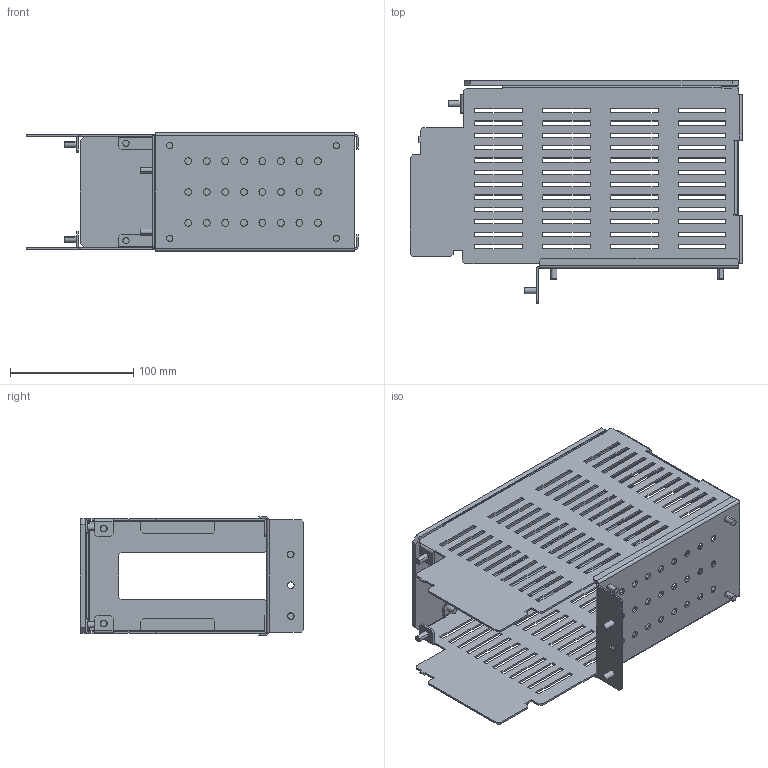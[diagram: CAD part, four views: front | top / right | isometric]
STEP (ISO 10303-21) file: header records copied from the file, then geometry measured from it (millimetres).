
FILE_DESCRIPTION(('CAx-IF Rec.Pracs.---Model Styling and Organization---1.2---2011-12-15','CAx-IF Rec.Pracs.---Geometric and Assembly Validation Properties---4.1---2014-06-16','CAx-IF Rec.Pracs.---PMI Polyline Presentation---2.0---2013-05-24'),'2;1');
FILE_NAME('R5M2W2MSB4.stp','2021-05-05T13:08:14+03:00',(''),(''),'STEP Interface 4.4 by CT CoreTechnologie','3D_Evolution4.4 by CT CoreTechnologie','');
FILE_SCHEMA(('AUTOMOTIVE_DESIGN { 1 0 10303 214 1 1 1 1 }'));
Length unit declared in the file: millimetre
Products named in the file (7): R5M2W2MSB4; M5x12-DIN7500C_stright; RB.1409.00.00.0_-01; RB.1462.00.00.0_-00; RB.1461.00.00.0_-00; RB.1460.00.00.0_-00; RB.1409.00.00.0_-00
Assembly tree (17 placements, depth 2):
  R5M2W2MSB4
    M5x12-DIN7500C_stright  x12
    RB.1409.00.00.0_-01
    RB.1462.00.00.0_-00
    RB.1461.00.00.0_-00
    RB.1460.00.00.0_-00
    RB.1409.00.00.0_-00
Bounding box: 269 x 181 x 96 mm (x, y, z)
Surface area: 258058.5 mm2 (no closed solid volume)
Topology: 0 solids, 17 shells, 784 faces, 2214 edges, 1464 vertices
Faces by surface type: plane 642, cylinder 142
Entity records: 25130 total; most frequent: CARTESIAN_POINT 4326, ORIENTED_EDGE 4296, DIRECTION 3904, EDGE_CURVE 2148, VECTOR 1908, LINE 1908, VERTEX_POINT 1420, EDGE_LOOP 1014
